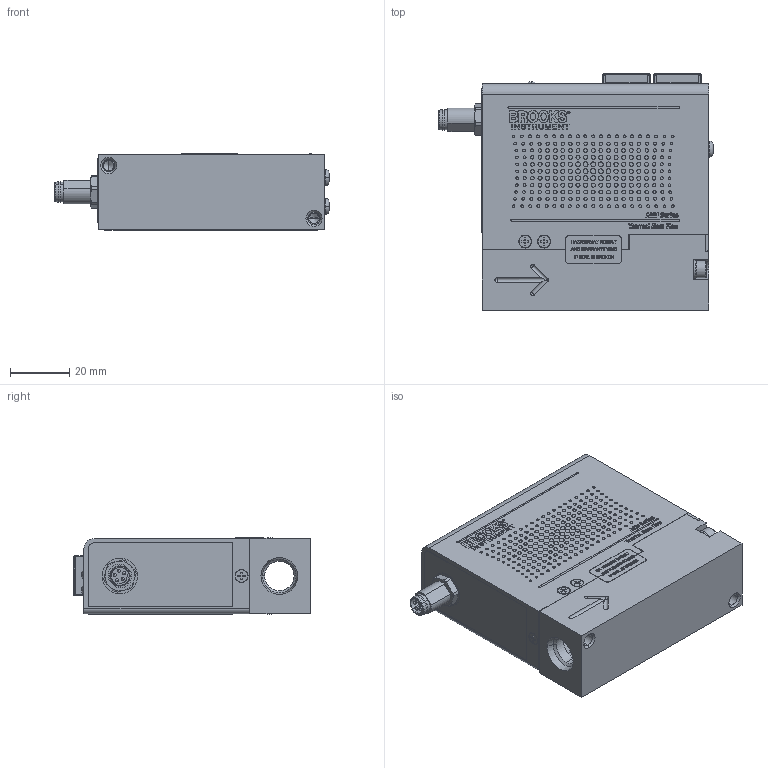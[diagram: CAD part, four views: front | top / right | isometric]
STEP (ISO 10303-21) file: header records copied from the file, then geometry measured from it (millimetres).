
FILE_DESCRIPTION (( 'STEP AP203' ), '1' );
FILE_NAME ('AMF-C-7-S-1A-A.STEP', '2026-05-21T16:02:32', ( '' ), ( '' ), 'SwSTEP 2.0', 'SolidWorks 2023', '' );
FILE_SCHEMA (( 'CONFIG_CONTROL_DESIGN' ));
Products named in the file (1): AMF-C-7-S-1A-A
Bounding box: 92.25 x 79.61 x 25.82 mm (x, y, z)
Volume: 23189.8 mm3; surface area: 42067.5 mm2
Topology: 28 solids, 31 shells, 3796 faces, 9654 edges, 6296 vertices
Faces by surface type: plane 1977, bspline 1239, cylinder 429, cone 113, torus 21, sphere 17
Entity records: 140547 total; most frequent: CARTESIAN_POINT 57581, ORIENTED_EDGE 19216, DIRECTION 12718, EDGE_CURVE 9608, VERTEX_POINT 6280, VECTOR 5992, LINE 5992, EDGE_LOOP 4262
